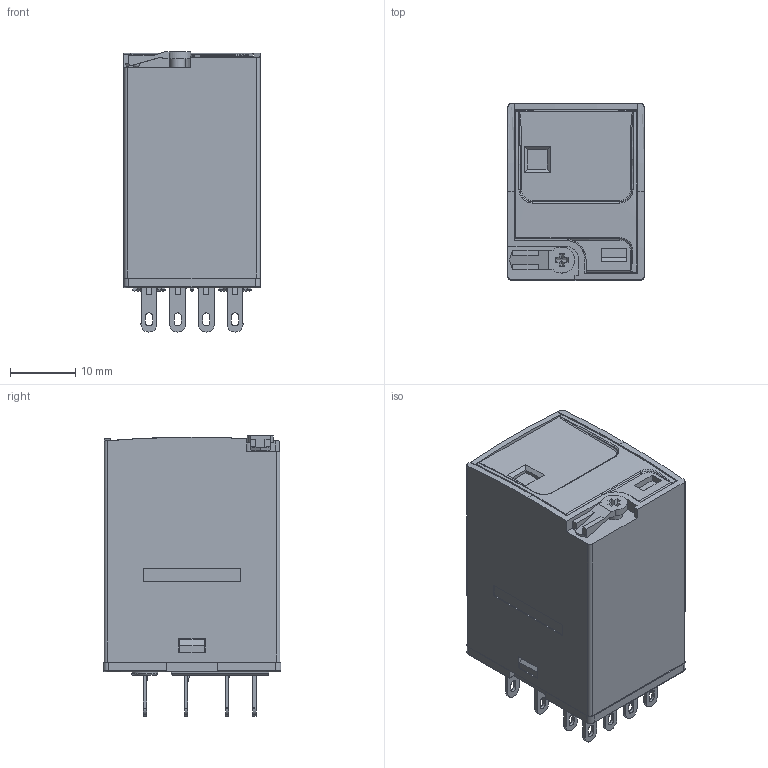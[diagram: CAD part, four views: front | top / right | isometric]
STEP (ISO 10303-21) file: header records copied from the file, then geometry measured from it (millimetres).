
FILE_DESCRIPTION (( 'STEP AP203' ), '1' );
FILE_NAME ('68B4Z裔啣宒.STEP', '2019-03-13T03:08:46', ( 'XiaZaiMa.COM' ), ( 'Win10NeT.COM' ), 'SwSTEP 2.0', 'SolidWorks 2014', '' );
FILE_SCHEMA (( 'CONFIG_CONTROL_DESIGN' ));
Length unit declared in the file: millimetre
Products named in the file (27): 68B4Z裔啣宒; 68B2Z噙萸; 68A2Z傻穩隊; 68A2Z盄婁; 68B遵褐諉盄え; 68BZ4Z雄銅え; 68A2ZDC沺郋; PCB support; 68BZ4Z唅聽雄輸; 68B4Z线圈引线脚; PCB; insulator; 68B4Z线圈引线脚右; flag; 68B4Z雄銅郪璃; 棠繚郪璃; 俋褲ㄗ唅蛌宒ㄘ; 嶺銅; 13F蹟佪; 68A2Z說倛唅蛌裔啣; 54價釱; 68B4Z三复合动点; 68A2ZDC濎沺; 13F2Z芢裝; 68B4Z遵褐噙え; 68A2Z玴沺DC; 68A2Z线圈架
Assembly tree (49 placements, depth 3):
  68B4Z裔啣宒
    棠繚郪璃
      68A2ZDC濎沺
      68A2Z线圈架
      68A2Z盄婁
      68A2ZDC沺郋
      68B4Z线圈引线脚
      68B4Z线圈引线脚右
    13F蹟佪
    68B4Z雄銅郪璃
      68B4Z三复合动点  x4
      68A2Z玴沺DC
      68A2Z傻穩隊  x2
      68BZ4Z雄銅え
      68BZ4Z唅聽雄輸
      insulator
    嶺銅
    54價釱
    68B4Z遵褐噙え  x8
    68B2Z噙萸  x8
    68B遵褐諉盄え  x6
    PCB support
    PCB
    flag
    俋褲ㄗ唅蛌宒ㄘ
    68A2Z說倛唅蛌裔啣
    13F2Z芢裝
Bounding box: 21 x 27.3 x 43 mm (x, y, z)
Volume: 11237.4 mm3; surface area: 22196.7 mm2
Topology: 50 solids, 50 shells, 3398 faces, 8851 edges, 5668 vertices
Faces by surface type: plane 2343, cylinder 794, torus 121, bspline 58, cone 44, sphere 38
Entity records: 83220 total; most frequent: CARTESIAN_POINT 19943, ORIENTED_EDGE 12718, DIRECTION 12007, EDGE_CURVE 6359, VECTOR 4819, LINE 4819, VERTEX_POINT 4046, AXIS2_PLACEMENT_3D 3594
